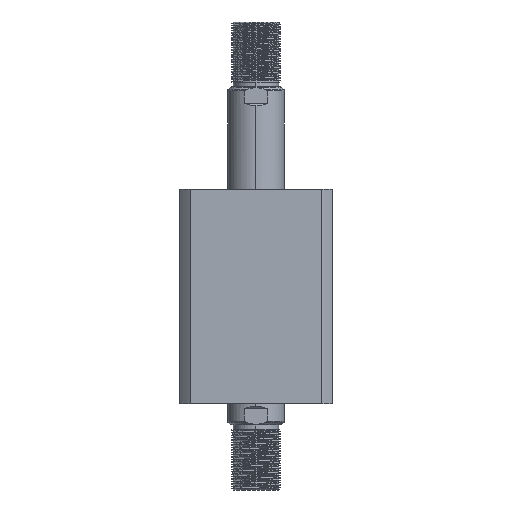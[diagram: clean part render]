
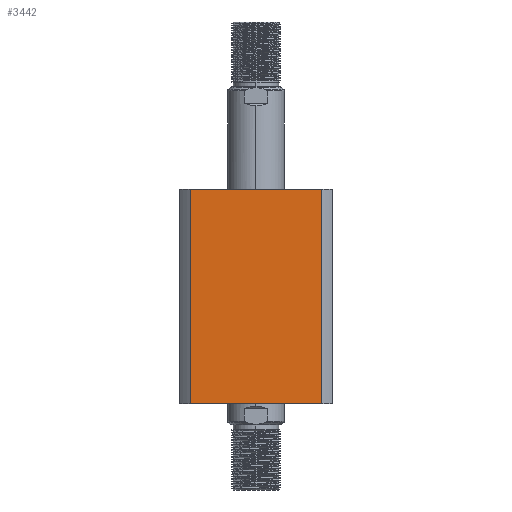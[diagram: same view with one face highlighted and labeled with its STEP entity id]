
A CAD part, left-side view. The second image highlights one B-rep face of the part: STEP entity #3442.
In plain terms, the highlighted planar face has unit normal (-1, 0, 0).
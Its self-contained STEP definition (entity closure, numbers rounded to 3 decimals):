
#1335 = VECTOR ( 'NONE', #18102, 1000. ) ;
#1518 = VECTOR ( 'NONE', #11888, 1000. ) ;
#2287 = ORIENTED_EDGE ( 'NONE', *, *, #21002, .F. ) ;
#3132 = VERTEX_POINT ( 'NONE', #26467 ) ;
#3442 = ADVANCED_FACE ( 'NONE', ( #8842 ), #3648, .F. ) ;
#3648 = PLANE ( 'NONE',  #22353 ) ;
#5802 = DIRECTION ( 'NONE',  ( 0., 1., 0. ) ) ;
#6564 = LINE ( 'NONE', #14000, #1518 ) ;
#8842 = FACE_OUTER_BOUND ( 'NONE', #24290, .T. ) ;
#8983 = LINE ( 'NONE', #27033, #25966 ) ;
#10712 = LINE ( 'NONE', #17764, #15683 ) ;
#11478 = VERTEX_POINT ( 'NONE', #15969 ) ;
#11888 = DIRECTION ( 'NONE',  ( 0., -1., 0. ) ) ;
#14000 = CARTESIAN_POINT ( 'NONE',  ( -47., 47., 132. ) ) ;
#14030 = LINE ( 'NONE', #15962, #1335 ) ;
#14095 = CARTESIAN_POINT ( 'NONE',  ( -47., 40.435, 0. ) ) ;
#14271 = CARTESIAN_POINT ( 'NONE',  ( -47., 47., 132. ) ) ;
#15683 = VECTOR ( 'NONE', #17869, 1000. ) ;
#15946 = EDGE_CURVE ( 'NONE', #3132, #11478, #6564, .T. ) ;
#15962 = CARTESIAN_POINT ( 'NONE',  ( -47., 40.435, 600. ) ) ;
#15969 = CARTESIAN_POINT ( 'NONE',  ( -47., -40.435, 132. ) ) ;
#16010 = VERTEX_POINT ( 'NONE', #14095 ) ;
#16335 = DIRECTION ( 'NONE',  ( 0., -1., 0. ) ) ;
#17151 = CARTESIAN_POINT ( 'NONE',  ( -47., -40.435, 0. ) ) ;
#17764 = CARTESIAN_POINT ( 'NONE',  ( -47., -40.435, 600. ) ) ;
#17869 = DIRECTION ( 'NONE',  ( 0., 0., -1. ) ) ;
#18102 = DIRECTION ( 'NONE',  ( 0., 0., 1. ) ) ;
#18563 = DIRECTION ( 'NONE',  ( 1., 0., 0. ) ) ;
#20334 = ORIENTED_EDGE ( 'NONE', *, *, #20606, .F. ) ;
#20606 = EDGE_CURVE ( 'NONE', #16010, #3132, #14030, .T. ) ;
#21002 = EDGE_CURVE ( 'NONE', #11478, #27354, #10712, .T. ) ;
#22353 = AXIS2_PLACEMENT_3D ( 'NONE', #14271, #18563, #5802 ) ;
#23178 = EDGE_CURVE ( 'NONE', #16010, #27354, #8983, .T. ) ;
#23729 = ORIENTED_EDGE ( 'NONE', *, *, #15946, .F. ) ;
#24290 = EDGE_LOOP ( 'NONE', ( #2287, #23729, #20334, #25204 ) ) ;
#25204 = ORIENTED_EDGE ( 'NONE', *, *, #23178, .T. ) ;
#25966 = VECTOR ( 'NONE', #16335, 1000. ) ;
#26467 = CARTESIAN_POINT ( 'NONE',  ( -47., 40.435, 132. ) ) ;
#27033 = CARTESIAN_POINT ( 'NONE',  ( -47., 47., 0. ) ) ;
#27354 = VERTEX_POINT ( 'NONE', #17151 ) ;
